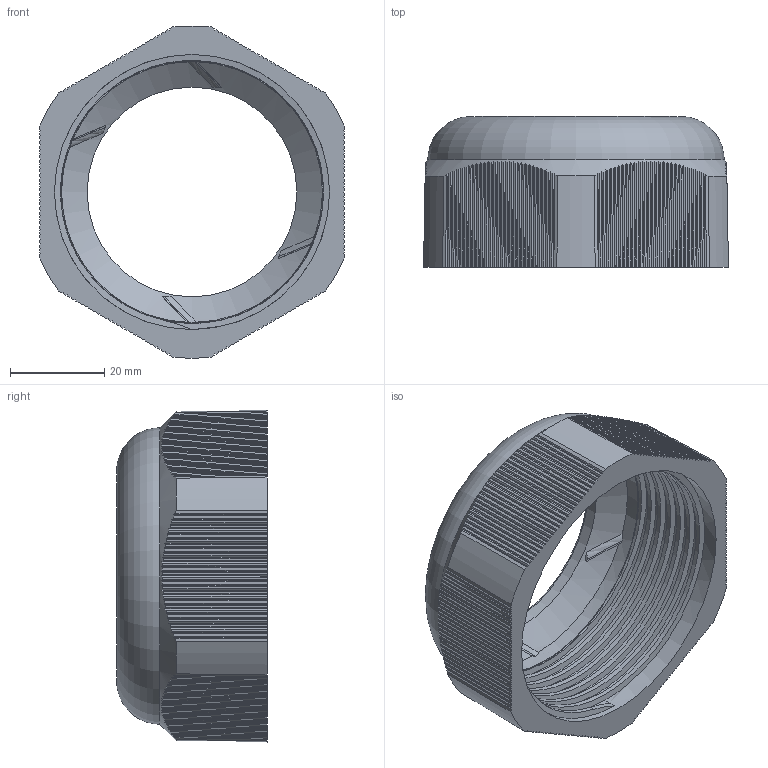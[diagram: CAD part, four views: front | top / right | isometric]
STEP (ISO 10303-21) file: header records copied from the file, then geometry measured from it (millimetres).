
FILE_DESCRIPTION (( 'STEP AP203' ), '1' );
FILE_NAME ('Ãàéêà öàíãîâàÿ (PG48).STEP', '2020-08-06T09:34:49', ( '' ), ( '' ), 'SwSTEP 2.0', 'SolidWorks 2019', '' );
FILE_SCHEMA (( 'CONFIG_CONTROL_DESIGN' ));
Length unit declared in the file: millimetre
Products named in the file (1): Ãàéêà öàíãîâàÿ (PG48)
Bounding box: 64.7 x 31.98 x 70.45 mm (x, y, z)
Volume: 28359.1 mm3; surface area: 17805.8 mm2
Topology: 1 solids, 1 shells, 536 faces, 1596 edges, 1062 vertices
Faces by surface type: plane 503, cylinder 12, cone 12, bspline 7, torus 2
Full cylindrical faces by diameter (mm): 44.5 x1, 55.4 x1, 58.4 x7
Entity records: 19735 total; most frequent: CARTESIAN_POINT 6593, ORIENTED_EDGE 3130, DIRECTION 2093, EDGE_CURVE 1565, VERTEX_POINT 1045, LINE 991, VECTOR 991, AXIS2_PLACEMENT_3D 551
